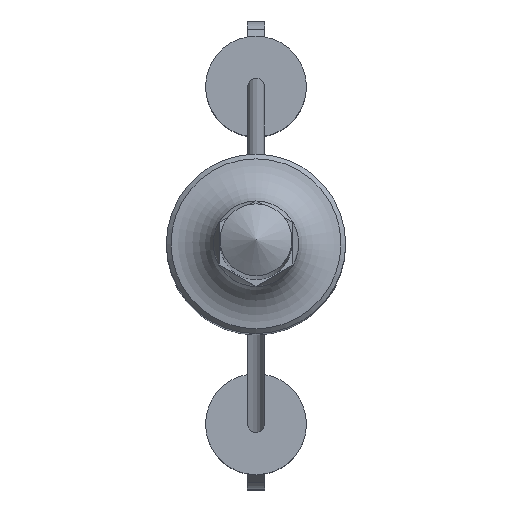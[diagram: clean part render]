
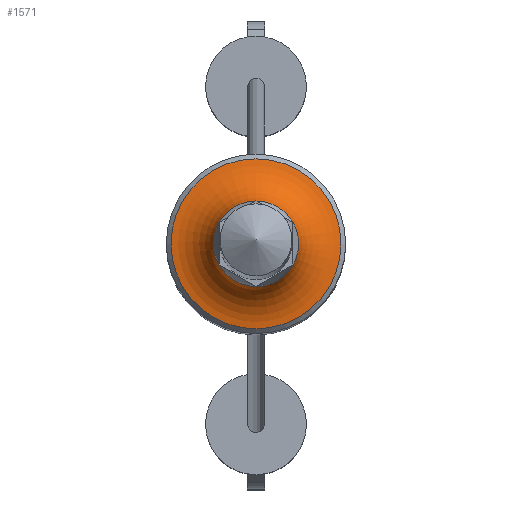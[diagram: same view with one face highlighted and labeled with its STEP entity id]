
A CAD part, top view. The second image highlights one B-rep face of the part: STEP entity #1571.
In plain terms, the highlighted toroidal (fillet/blend) face has major radius 4 mm and minor radius 2.213 mm.
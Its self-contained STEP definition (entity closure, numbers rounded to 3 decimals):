
#8 = CARTESIAN_POINT ( 'NONE',  ( 1.882, 0.34, -3.5 ) ) ;
#28 = ORIENTED_EDGE ( 'NONE', *, *, #1999, .F. ) ;
#39 = CARTESIAN_POINT ( 'NONE',  ( 1.794, -0.663, -3.5 ) ) ;
#43 = CARTESIAN_POINT ( 'NONE',  ( -1.65, -0.953, -3.5 ) ) ;
#122 = CARTESIAN_POINT ( 'NONE',  ( 0.805, 1.735, -3.5 ) ) ;
#169 = CARTESIAN_POINT ( 'NONE',  ( 1.729, -0.815, -3.5 ) ) ;
#178 = EDGE_CURVE ( 'NONE', #1597, #1597, #514, .T. ) ;
#194 = CARTESIAN_POINT ( 'NONE',  ( -0.159, -1.905, -3.5 ) ) ;
#228 = CARTESIAN_POINT ( 'NONE',  ( 0., 0., -2.787 ) ) ;
#229 = CARTESIAN_POINT ( 'NONE',  ( -0.646, -1.8, -3.5 ) ) ;
#241 = CARTESIAN_POINT ( 'NONE',  ( 0.323, -1.885, -3.5 ) ) ;
#280 = CARTESIAN_POINT ( 'NONE',  ( 1.1, 1.565, -3.5 ) ) ;
#281 = ORIENTED_EDGE ( 'NONE', *, *, #1933, .F. ) ;
#314 = VERTEX_POINT ( 'NONE', #781 ) ;
#338 = TOROIDAL_SURFACE ( 'NONE', #2017, 4., 2.213 ) ;
#363 = CARTESIAN_POINT ( 'NONE',  ( -0.805, -1.735, -3.5 ) ) ;
#370 = CARTESIAN_POINT ( 'NONE',  ( -1.794, 0.663, -3.5 ) ) ;
#375 = CARTESIAN_POINT ( 'NONE',  ( -1.471, -1.222, -3.5 ) ) ;
#380 = B_SPLINE_CURVE_WITH_KNOTS ( 'NONE', 3,
 ( #524, #1836, #370, #1023, #986, #1353, #838, #1510, #704, #1363 ),
 .UNSPECIFIED., .F., .F.,
 ( 4, 2, 2, 2, 4 ),
 ( 0., 0.25, 0.5, 0.75, 1. ),
 .UNSPECIFIED. ) ;
#420 = CARTESIAN_POINT ( 'NONE',  ( 0., 1.905, -3.5 ) ) ;
#436 = CARTESIAN_POINT ( 'NONE',  ( -0.323, 1.885, -3.5 ) ) ;
#451 = CARTESIAN_POINT ( 'NONE',  ( 1.471, -1.222, -3.5 ) ) ;
#469 = EDGE_LOOP ( 'NONE', ( #1822, #923, #1373, #541, #281, #28 ) ) ;
#512 = CARTESIAN_POINT ( 'NONE',  ( 1.882, -0.34, -3.5 ) ) ;
#514 = CIRCLE ( 'NONE', #1846, 3.79 ) ;
#524 = CARTESIAN_POINT ( 'NONE',  ( -1.65, 0.953, -3.5 ) ) ;
#541 = ORIENTED_EDGE ( 'NONE', *, *, #1293, .F. ) ;
#576 = CARTESIAN_POINT ( 'NONE',  ( -1.65, 0.953, -3.5 ) ) ;
#591 = CARTESIAN_POINT ( 'NONE',  ( 1.65, -0.953, -3.5 ) ) ;
#597 = CARTESIAN_POINT ( 'NONE',  ( 0.159, -1.905, -3.5 ) ) ;
#601 = CARTESIAN_POINT ( 'NONE',  ( -1.57, 1.09, -3.5 ) ) ;
#612 = CARTESIAN_POINT ( 'NONE',  ( 1.1, -1.565, -3.5 ) ) ;
#624 = CARTESIAN_POINT ( 'NONE',  ( 0.323, 1.885, -3.5 ) ) ;
#660 = VERTEX_POINT ( 'NONE', #591 ) ;
#674 = CARTESIAN_POINT ( 'NONE',  ( 1.794, 0.663, -3.5 ) ) ;
#700 = EDGE_CURVE ( 'NONE', #314, #1336, #1857, .T. ) ;
#704 = CARTESIAN_POINT ( 'NONE',  ( -1.729, -0.815, -3.5 ) ) ;
#762 = B_SPLINE_CURVE_WITH_KNOTS ( 'NONE', 3,
 ( #1384, #900, #436, #1875, #1533, #1565, #1396, #2047, #601, #1419 ),
 .UNSPECIFIED., .F., .F.,
 ( 4, 2, 2, 2, 4 ),
 ( 0., 0.25, 0.5, 0.75, 1. ),
 .UNSPECIFIED. ) ;
#780 = CARTESIAN_POINT ( 'NONE',  ( 1.236, -1.46, -3.5 ) ) ;
#781 = CARTESIAN_POINT ( 'NONE',  ( 1.65, 0.953, -3.5 ) ) ;
#782 = CARTESIAN_POINT ( 'NONE',  ( 0.646, 1.8, -3.5 ) ) ;
#838 = CARTESIAN_POINT ( 'NONE',  ( -1.882, -0.34, -3.5 ) ) ;
#885 = CARTESIAN_POINT ( 'NONE',  ( -1.1, -1.565, -3.5 ) ) ;
#900 = CARTESIAN_POINT ( 'NONE',  ( -0.159, 1.905, -3.5 ) ) ;
#918 = CARTESIAN_POINT ( 'NONE',  ( 1.57, 1.09, -3.5 ) ) ;
#923 = ORIENTED_EDGE ( 'NONE', *, *, #1954, .F. ) ;
#924 = B_SPLINE_CURVE_WITH_KNOTS ( 'NONE', 3,
 ( #1921, #597, #241, #2080, #925, #612, #780, #451, #1901, #1592 ),
 .UNSPECIFIED., .F., .F.,
 ( 4, 2, 2, 2, 4 ),
 ( 0., 0.25, 0.5, 0.75, 1. ),
 .UNSPECIFIED. ) ;
#925 = CARTESIAN_POINT ( 'NONE',  ( 0.805, -1.735, -3.5 ) ) ;
#926 = DIRECTION ( 'NONE',  ( 1., 0., 0. ) ) ;
#938 = VERTEX_POINT ( 'NONE', #576 ) ;
#947 = CARTESIAN_POINT ( 'NONE',  ( 0.159, 1.905, -3.5 ) ) ;
#986 = CARTESIAN_POINT ( 'NONE',  ( -1.905, 0.17, -3.5 ) ) ;
#1023 = CARTESIAN_POINT ( 'NONE',  ( -1.882, 0.34, -3.5 ) ) ;
#1025 = DIRECTION ( 'NONE',  ( 0., 0., 1. ) ) ;
#1075 = EDGE_CURVE ( 'NONE', #1397, #660, #924, .T. ) ;
#1081 = CARTESIAN_POINT ( 'NONE',  ( 1.65, 0.953, -3.5 ) ) ;
#1124 = CARTESIAN_POINT ( 'NONE',  ( 3.79, 0., -4.99 ) ) ;
#1158 = B_SPLINE_CURVE_WITH_KNOTS ( 'NONE', 3,
 ( #43, #1983, #375, #1537, #885, #363, #229, #1668, #194, #2006 ),
 .UNSPECIFIED., .F., .F.,
 ( 4, 2, 2, 2, 4 ),
 ( 0., 0.25, 0.5, 0.75, 1. ),
 .UNSPECIFIED. ) ;
#1293 = EDGE_CURVE ( 'NONE', #1894, #1397, #1158, .T. ) ;
#1320 = CARTESIAN_POINT ( 'NONE',  ( 1.729, 0.815, -3.5 ) ) ;
#1336 = VERTEX_POINT ( 'NONE', #420 ) ;
#1353 = CARTESIAN_POINT ( 'NONE',  ( -1.905, -0.17, -3.5 ) ) ;
#1363 = CARTESIAN_POINT ( 'NONE',  ( -1.65, -0.953, -3.5 ) ) ;
#1365 = FACE_OUTER_BOUND ( 'NONE', #469, .T. ) ;
#1373 = ORIENTED_EDGE ( 'NONE', *, *, #1075, .F. ) ;
#1384 = CARTESIAN_POINT ( 'NONE',  ( 0., 1.905, -3.5 ) ) ;
#1396 = CARTESIAN_POINT ( 'NONE',  ( -1.236, 1.46, -3.5 ) ) ;
#1397 = VERTEX_POINT ( 'NONE', #1784 ) ;
#1419 = CARTESIAN_POINT ( 'NONE',  ( -1.65, 0.953, -3.5 ) ) ;
#1450 = CARTESIAN_POINT ( 'NONE',  ( 0., 0., -4.99 ) ) ;
#1479 = CARTESIAN_POINT ( 'NONE',  ( 1.905, 0.17, -3.5 ) ) ;
#1510 = CARTESIAN_POINT ( 'NONE',  ( -1.794, -0.663, -3.5 ) ) ;
#1520 = CARTESIAN_POINT ( 'NONE',  ( -1.65, -0.953, -3.5 ) ) ;
#1533 = CARTESIAN_POINT ( 'NONE',  ( -0.805, 1.735, -3.5 ) ) ;
#1537 = CARTESIAN_POINT ( 'NONE',  ( -1.236, -1.46, -3.5 ) ) ;
#1565 = CARTESIAN_POINT ( 'NONE',  ( -1.1, 1.565, -3.5 ) ) ;
#1571 = ADVANCED_FACE ( 'NONE', ( #1676, #1365 ), #338, .F. ) ;
#1584 = CARTESIAN_POINT ( 'NONE',  ( 1.471, 1.222, -3.5 ) ) ;
#1592 = CARTESIAN_POINT ( 'NONE',  ( 1.65, -0.953, -3.5 ) ) ;
#1597 = VERTEX_POINT ( 'NONE', #1124 ) ;
#1643 = CARTESIAN_POINT ( 'NONE',  ( 1.65, -0.953, -3.5 ) ) ;
#1655 = DIRECTION ( 'NONE',  ( 1., 0., 0. ) ) ;
#1668 = CARTESIAN_POINT ( 'NONE',  ( -0.323, -1.885, -3.5 ) ) ;
#1676 = FACE_OUTER_BOUND ( 'NONE', #2096, .T. ) ;
#1733 = CARTESIAN_POINT ( 'NONE',  ( 1.236, 1.46, -3.5 ) ) ;
#1746 = CARTESIAN_POINT ( 'NONE',  ( 0., 1.905, -3.5 ) ) ;
#1754 = DIRECTION ( 'NONE',  ( 0., 0., 1. ) ) ;
#1784 = CARTESIAN_POINT ( 'NONE',  ( 0., -1.905, -3.5 ) ) ;
#1816 = CARTESIAN_POINT ( 'NONE',  ( 1.65, 0.953, -3.5 ) ) ;
#1822 = ORIENTED_EDGE ( 'NONE', *, *, #700, .F. ) ;
#1836 = CARTESIAN_POINT ( 'NONE',  ( -1.729, 0.815, -3.5 ) ) ;
#1846 = AXIS2_PLACEMENT_3D ( 'NONE', #1450, #1754, #926 ) ;
#1857 = B_SPLINE_CURVE_WITH_KNOTS ( 'NONE', 3,
 ( #1081, #918, #1584, #1733, #280, #122, #782, #624, #947, #1746 ),
 .UNSPECIFIED., .F., .F.,
 ( 4, 2, 2, 2, 4 ),
 ( 0., 0.25, 0.5, 0.75, 1. ),
 .UNSPECIFIED. ) ;
#1863 = ORIENTED_EDGE ( 'NONE', *, *, #178, .T. ) ;
#1875 = CARTESIAN_POINT ( 'NONE',  ( -0.646, 1.8, -3.5 ) ) ;
#1894 = VERTEX_POINT ( 'NONE', #1520 ) ;
#1901 = CARTESIAN_POINT ( 'NONE',  ( 1.57, -1.09, -3.5 ) ) ;
#1921 = CARTESIAN_POINT ( 'NONE',  ( 0., -1.905, -3.5 ) ) ;
#1933 = EDGE_CURVE ( 'NONE', #938, #1894, #380, .T. ) ;
#1954 = EDGE_CURVE ( 'NONE', #660, #314, #2119, .T. ) ;
#1983 = CARTESIAN_POINT ( 'NONE',  ( -1.57, -1.09, -3.5 ) ) ;
#1999 = EDGE_CURVE ( 'NONE', #1336, #938, #762, .T. ) ;
#2006 = CARTESIAN_POINT ( 'NONE',  ( 0., -1.905, -3.5 ) ) ;
#2013 = CARTESIAN_POINT ( 'NONE',  ( 1.905, -0.17, -3.5 ) ) ;
#2017 = AXIS2_PLACEMENT_3D ( 'NONE', #228, #1025, #1655 ) ;
#2047 = CARTESIAN_POINT ( 'NONE',  ( -1.471, 1.222, -3.5 ) ) ;
#2080 = CARTESIAN_POINT ( 'NONE',  ( 0.646, -1.8, -3.5 ) ) ;
#2096 = EDGE_LOOP ( 'NONE', ( #1863 ) ) ;
#2119 = B_SPLINE_CURVE_WITH_KNOTS ( 'NONE', 3,
 ( #1643, #169, #39, #512, #2013, #1479, #8, #674, #1320, #1816 ),
 .UNSPECIFIED., .F., .F.,
 ( 4, 2, 2, 2, 4 ),
 ( 0., 0.25, 0.5, 0.75, 1. ),
 .UNSPECIFIED. ) ;
